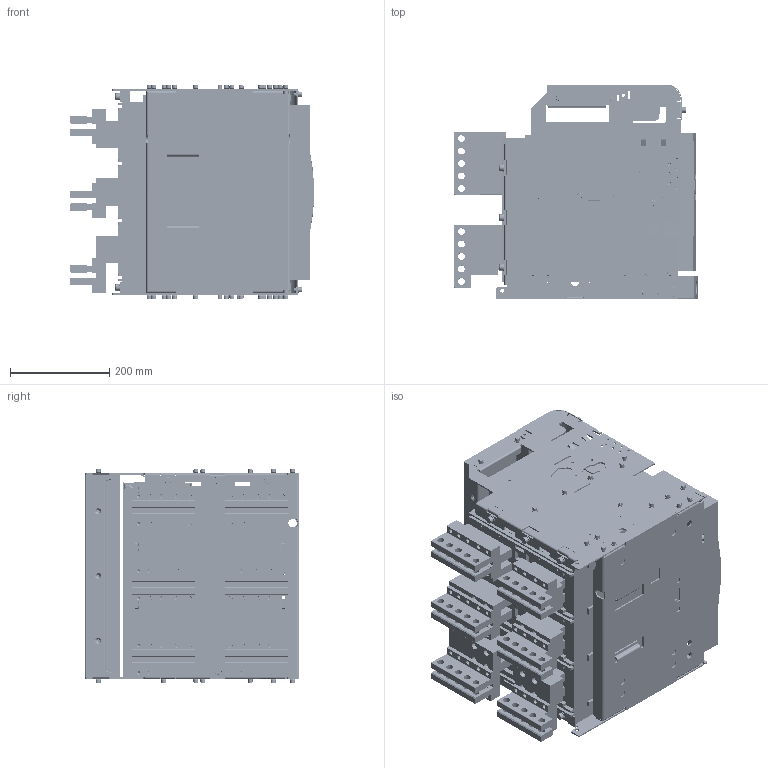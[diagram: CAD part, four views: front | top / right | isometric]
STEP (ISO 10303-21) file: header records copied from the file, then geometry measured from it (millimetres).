
FILE_DESCRIPTION (( 'STEP AP214' ), '1' );
FILE_NAME ('OptiMat A-S4-BH-4000-3P-D-V.STEP', '2023-10-18T12:03:18', ( '' ), ( '' ), 'SwSTEP 2.0', 'SolidWorks 2018', '' );
FILE_SCHEMA (( 'AUTOMOTIVE_DESIGN' ));
Length unit declared in the file: millimetre
Products named in the file (1): OptiMat A-S4-BH-4000-3P-D-V
Bounding box: 490.8 x 431.5 x 430 mm (x, y, z)
Volume: 44203370.6 mm3; surface area: 3083472.1 mm2
Topology: 114 solids, 156 shells, 8163 faces, 21158 edges, 13600 vertices
Faces by surface type: plane 4369, cylinder 2638, cone 435, bspline 383, torus 310, sphere 28
Entity records: 356354 total; most frequent: CARTESIAN_POINT 67044, ORIENTED_EDGE 42050, DIRECTION 41994, EDGE_CURVE 21025, AXIS2_PLACEMENT_3D 14598, VERTEX_POINT 13595, VECTOR 12798, LINE 12798
